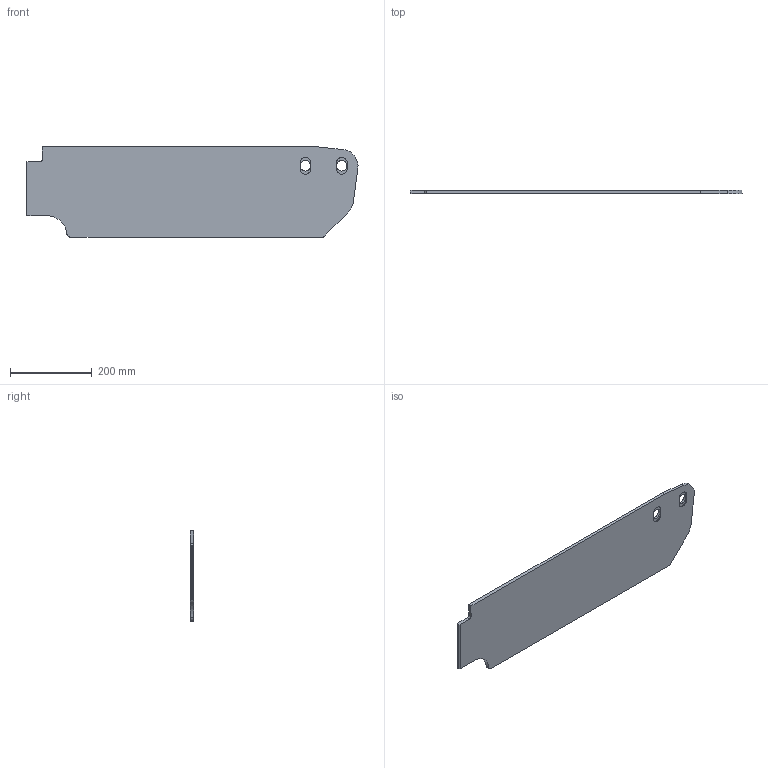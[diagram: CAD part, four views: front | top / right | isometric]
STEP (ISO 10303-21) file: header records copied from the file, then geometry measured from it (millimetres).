
FILE_DESCRIPTION (( 'STEP AP203' ), '1' );
FILE_NAME ('YYDK-500-0033-4 支架侧板2（500T）.step', '2026-03-04T03:12:57', ( 'Windows 用户' ), ( '' ), 'SwSTEP 2.0', 'SolidWorks 2020', '' );
FILE_SCHEMA (( 'CONFIG_CONTROL_DESIGN' ));
Length unit declared in the file: millimetre
Products named in the file (1): YYDK-500-0033-4 支架侧板2（500T）
Bounding box: 810.03 x 8.82 x 220.82 mm (x, y, z)
Volume: 1330739.5 mm3; surface area: 349956.8 mm2
Topology: 1 solids, 1 shells, 35 faces, 93 edges, 62 vertices
Faces by surface type: plane 19, cylinder 16
Entity records: 1178 total; most frequent: CARTESIAN_POINT 209, ORIENTED_EDGE 186, DIRECTION 185, EDGE_CURVE 93, VERTEX_POINT 62, AXIS2_PLACEMENT_3D 62, VECTOR 61, LINE 61
